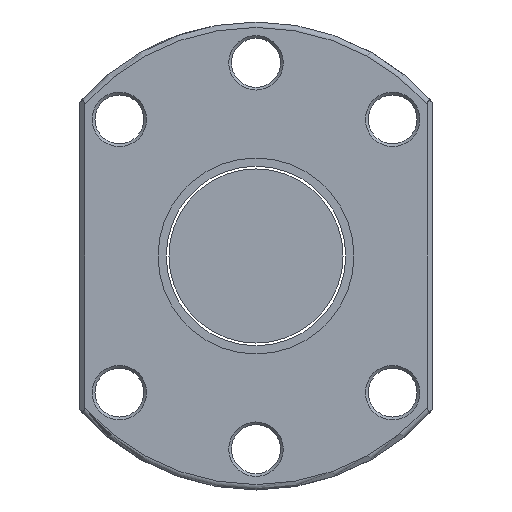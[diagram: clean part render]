
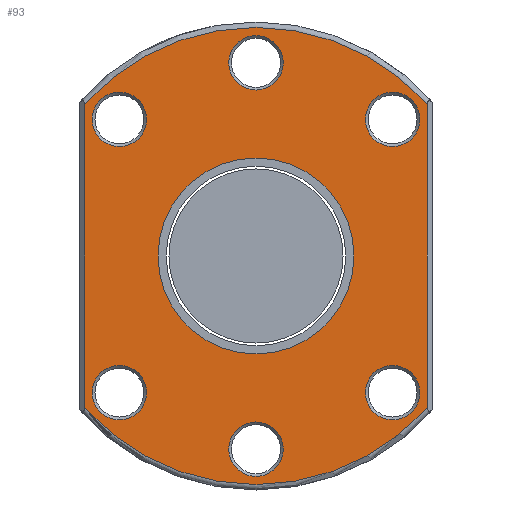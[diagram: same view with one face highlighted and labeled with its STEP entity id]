
A CAD part, left-side view. The second image highlights one B-rep face of the part: STEP entity #93.
In plain terms, the highlighted planar face has unit normal (-1, 0, 0).
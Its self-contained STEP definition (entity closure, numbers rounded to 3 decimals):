
#64=PLANE('',#687);
#93=ADVANCED_FACE('',(#226,#227,#228,#229,#230,#231,#232,#233),#64,.F.);
#158=CIRCLE('',#678,5.);
#159=CIRCLE('',#679,5.);
#160=CIRCLE('',#680,5.);
#161=CIRCLE('',#681,5.);
#162=CIRCLE('',#682,5.);
#163=CIRCLE('',#683,5.);
#164=CIRCLE('',#684,18.);
#165=CIRCLE('',#685,42.);
#166=CIRCLE('',#686,42.);
#204=LINE('',#1027,#216);
#205=LINE('',#1031,#217);
#216=VECTOR('',#799,1.);
#217=VECTOR('',#802,1.);
#226=FACE_BOUND('',#309,.T.);
#227=FACE_BOUND('',#310,.T.);
#228=FACE_BOUND('',#311,.T.);
#229=FACE_BOUND('',#312,.T.);
#230=FACE_BOUND('',#313,.T.);
#231=FACE_BOUND('',#314,.T.);
#232=FACE_BOUND('',#315,.T.);
#233=FACE_BOUND('',#316,.T.);
#309=EDGE_LOOP('',(#409));
#310=EDGE_LOOP('',(#410));
#311=EDGE_LOOP('',(#411));
#312=EDGE_LOOP('',(#412));
#313=EDGE_LOOP('',(#413));
#314=EDGE_LOOP('',(#414));
#315=EDGE_LOOP('',(#415));
#316=EDGE_LOOP('',(#416,#417,#418,#419));
#409=ORIENTED_EDGE('',*,*,#602,.T.);
#410=ORIENTED_EDGE('',*,*,#603,.T.);
#411=ORIENTED_EDGE('',*,*,#604,.T.);
#412=ORIENTED_EDGE('',*,*,#605,.T.);
#413=ORIENTED_EDGE('',*,*,#606,.T.);
#414=ORIENTED_EDGE('',*,*,#607,.T.);
#415=ORIENTED_EDGE('',*,*,#608,.F.);
#416=ORIENTED_EDGE('',*,*,#609,.T.);
#417=ORIENTED_EDGE('',*,*,#610,.T.);
#418=ORIENTED_EDGE('',*,*,#611,.T.);
#419=ORIENTED_EDGE('',*,*,#612,.T.);
#545=VERTEX_POINT('',#1011);
#546=VERTEX_POINT('',#1013);
#547=VERTEX_POINT('',#1015);
#548=VERTEX_POINT('',#1017);
#549=VERTEX_POINT('',#1019);
#550=VERTEX_POINT('',#1021);
#551=VERTEX_POINT('',#1023);
#552=VERTEX_POINT('',#1025);
#553=VERTEX_POINT('',#1026);
#554=VERTEX_POINT('',#1028);
#555=VERTEX_POINT('',#1030);
#602=EDGE_CURVE('',#545,#545,#158,.T.);
#603=EDGE_CURVE('',#546,#546,#159,.T.);
#604=EDGE_CURVE('',#547,#547,#160,.T.);
#605=EDGE_CURVE('',#548,#548,#161,.T.);
#606=EDGE_CURVE('',#549,#549,#162,.T.);
#607=EDGE_CURVE('',#550,#550,#163,.T.);
#608=EDGE_CURVE('',#551,#551,#164,.T.);
#609=EDGE_CURVE('',#552,#553,#165,.T.);
#610=EDGE_CURVE('',#553,#554,#204,.T.);
#611=EDGE_CURVE('',#554,#555,#166,.T.);
#612=EDGE_CURVE('',#555,#552,#205,.T.);
#678=AXIS2_PLACEMENT_3D('',#1010,#783,#784);
#679=AXIS2_PLACEMENT_3D('',#1012,#785,#786);
#680=AXIS2_PLACEMENT_3D('',#1014,#787,#788);
#681=AXIS2_PLACEMENT_3D('',#1016,#789,#790);
#682=AXIS2_PLACEMENT_3D('',#1018,#791,#792);
#683=AXIS2_PLACEMENT_3D('',#1020,#793,#794);
#684=AXIS2_PLACEMENT_3D('',#1022,#795,#796);
#685=AXIS2_PLACEMENT_3D('',#1024,#797,#798);
#686=AXIS2_PLACEMENT_3D('',#1029,#800,#801);
#687=AXIS2_PLACEMENT_3D('',#1032,#803,#804);
#783=DIRECTION('',(1.,0.,0.));
#784=DIRECTION('',(0.,0.,-1.));
#785=DIRECTION('',(1.,0.,0.));
#786=DIRECTION('',(0.,0.,-1.));
#787=DIRECTION('',(1.,0.,0.));
#788=DIRECTION('',(0.,0.,-1.));
#789=DIRECTION('',(1.,0.,0.));
#790=DIRECTION('',(0.,0.,-1.));
#791=DIRECTION('',(1.,0.,0.));
#792=DIRECTION('',(0.,0.,-1.));
#793=DIRECTION('',(1.,0.,0.));
#794=DIRECTION('',(0.,0.,-1.));
#795=DIRECTION('',(-1.,0.,0.));
#796=DIRECTION('',(0.,0.,1.));
#797=DIRECTION('',(-1.,0.,0.));
#798=DIRECTION('',(0.,0.,-1.));
#799=DIRECTION('',(0.,0.,1.));
#800=DIRECTION('',(-1.,0.,0.));
#801=DIRECTION('',(0.,0.,-1.));
#802=DIRECTION('',(0.,0.,-1.));
#803=DIRECTION('',(1.,0.,0.));
#804=DIRECTION('',(0.,0.,-1.));
#1010=CARTESIAN_POINT('',(-92.,25.102,25.102));
#1011=CARTESIAN_POINT('',(-92.,25.102,20.102));
#1012=CARTESIAN_POINT('',(-92.,0.,-35.5));
#1013=CARTESIAN_POINT('',(-92.,0.,-40.5));
#1014=CARTESIAN_POINT('',(-92.,25.102,-25.102));
#1015=CARTESIAN_POINT('',(-92.,25.102,-30.102));
#1016=CARTESIAN_POINT('',(-92.,0.,35.5));
#1017=CARTESIAN_POINT('',(-92.,0.,30.5));
#1018=CARTESIAN_POINT('',(-92.,-25.102,25.102));
#1019=CARTESIAN_POINT('',(-92.,-25.102,20.102));
#1020=CARTESIAN_POINT('',(-92.,-25.102,-25.102));
#1021=CARTESIAN_POINT('',(-92.,-25.102,-30.102));
#1022=CARTESIAN_POINT('',(-92.,0.,0.));
#1023=CARTESIAN_POINT('',(-92.,0.,18.));
#1024=CARTESIAN_POINT('',(-92.,0.,0.));
#1025=CARTESIAN_POINT('',(-92.,31.5,-27.78));
#1026=CARTESIAN_POINT('',(-92.,-31.5,-27.78));
#1027=CARTESIAN_POINT('',(-92.,-31.5,26.604));
#1028=CARTESIAN_POINT('',(-92.,-31.5,27.78));
#1029=CARTESIAN_POINT('',(-92.,0.,0.));
#1030=CARTESIAN_POINT('',(-92.,31.5,27.78));
#1031=CARTESIAN_POINT('',(-92.,31.5,-26.604));
#1032=CARTESIAN_POINT('',(-92.,0.,43.));
